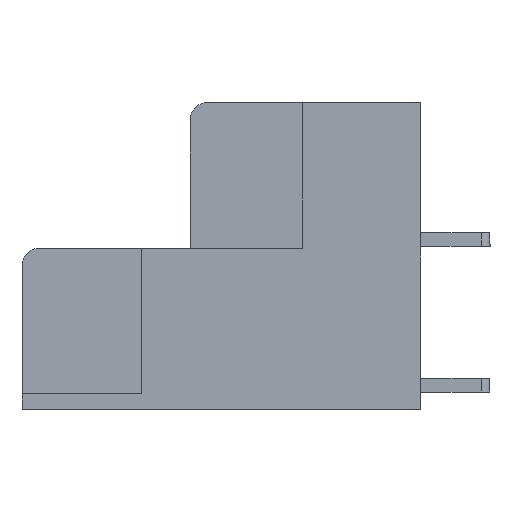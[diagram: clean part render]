
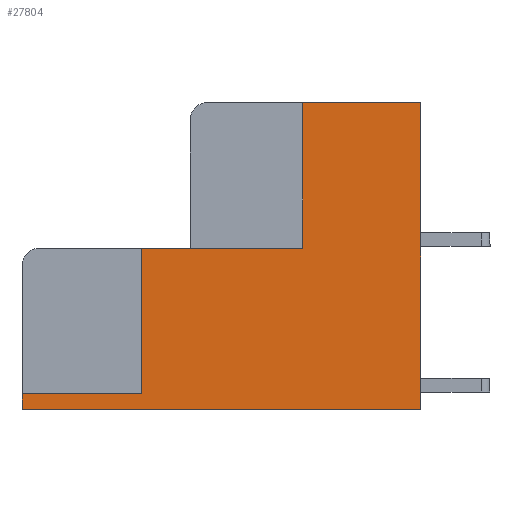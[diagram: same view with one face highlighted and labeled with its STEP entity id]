
A CAD part, left-side view. The second image highlights one B-rep face of the part: STEP entity #27804.
In plain terms, the highlighted planar face has unit normal (-1, 0, 0).
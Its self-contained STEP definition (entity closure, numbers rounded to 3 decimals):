
#1618=VERTEX_POINT('',#36957);
#1619=VERTEX_POINT('',#36959);
#1621=VERTEX_POINT('',#36965);
#1626=VERTEX_POINT('',#36978);
#1627=VERTEX_POINT('',#36980);
#1628=VERTEX_POINT('',#36985);
#1629=VERTEX_POINT('',#36987);
#1630=VERTEX_POINT('',#36989);
#4424=VECTOR('',#31418,1.);
#4428=VECTOR('',#31423,1.);
#4433=VECTOR('',#31432,1.);
#4435=VECTOR('',#31435,1.);
#4436=VECTOR('',#31436,1.);
#4437=VECTOR('',#31437,1.);
#4438=VECTOR('',#31438,1.);
#4439=VECTOR('',#31439,1.);
#7542=LINE('',#36958,#4424);
#7546=LINE('',#36966,#4428);
#7551=LINE('',#36979,#4433);
#7553=LINE('',#36983,#4435);
#7554=LINE('',#36984,#4436);
#7555=LINE('',#36986,#4437);
#7556=LINE('',#36988,#4438);
#7557=LINE('',#36990,#4439);
#10640=EDGE_CURVE('',#1618,#1619,#7542,.T.);
#10644=EDGE_CURVE('',#1621,#1618,#7546,.T.);
#10650=EDGE_CURVE('',#1626,#1627,#7551,.T.);
#10652=EDGE_CURVE('',#1619,#1626,#7553,.T.);
#10653=EDGE_CURVE('',#1628,#1621,#7554,.T.);
#10654=EDGE_CURVE('',#1629,#1628,#7555,.T.);
#10655=EDGE_CURVE('',#1630,#1629,#7556,.T.);
#10656=EDGE_CURVE('',#1627,#1630,#7557,.T.);
#15049=ORIENTED_EDGE('',*,*,#10650,.F.);
#15050=ORIENTED_EDGE('',*,*,#10652,.F.);
#15051=ORIENTED_EDGE('',*,*,#10640,.F.);
#15052=ORIENTED_EDGE('',*,*,#10644,.F.);
#15053=ORIENTED_EDGE('',*,*,#10653,.F.);
#15054=ORIENTED_EDGE('',*,*,#10654,.F.);
#15055=ORIENTED_EDGE('',*,*,#10655,.F.);
#15056=ORIENTED_EDGE('',*,*,#10656,.F.);
#23824=EDGE_LOOP('',(#15049,#15050,#15051,#15052,#15053,#15054,#15055,#15056));
#25814=FACE_BOUND('',#23824,.T.);
#27804=ADVANCED_FACE('',(#25814),#54873,.F.);
#29607=AXIS2_PLACEMENT_3D('',#36982,#31434,$);
#31418=DIRECTION('',(0.,0.,1.));
#31423=DIRECTION('',(0.,-1.,0.));
#31432=DIRECTION('',(0.,0.,1.));
#31434=DIRECTION('',(1.,0.,0.));
#31435=DIRECTION('',(0.,-1.,0.));
#31436=DIRECTION('',(0.,0.,1.));
#31437=DIRECTION('',(0.,1.,0.));
#31438=DIRECTION('',(0.,0.,-1.));
#31439=DIRECTION('',(0.,-1.,0.));
#36957=CARTESIAN_POINT('',(0.,16.1,0.9));
#36958=CARTESIAN_POINT('',(0.,16.1,0.9));
#36959=CARTESIAN_POINT('',(0.,16.1,9.3));
#36965=CARTESIAN_POINT('',(0.,23.,0.9));
#36966=CARTESIAN_POINT('',(0.,23.,0.9));
#36978=CARTESIAN_POINT('',(0.,6.8,9.3));
#36979=CARTESIAN_POINT('',(0.,6.8,9.3));
#36980=CARTESIAN_POINT('',(0.,6.8,17.7));
#36982=CARTESIAN_POINT('',(0.,3.4,13.5));
#36983=CARTESIAN_POINT('',(0.,16.1,9.3));
#36984=CARTESIAN_POINT('',(0.,23.,0.));
#36985=CARTESIAN_POINT('',(0.,23.,0.));
#36986=CARTESIAN_POINT('',(0.,0.,0.));
#36987=CARTESIAN_POINT('',(0.,0.,0.));
#36988=CARTESIAN_POINT('',(0.,0.,17.7));
#36989=CARTESIAN_POINT('',(0.,0.,17.7));
#36990=CARTESIAN_POINT('',(0.,6.8,17.7));
#54873=PLANE('',#29607);
